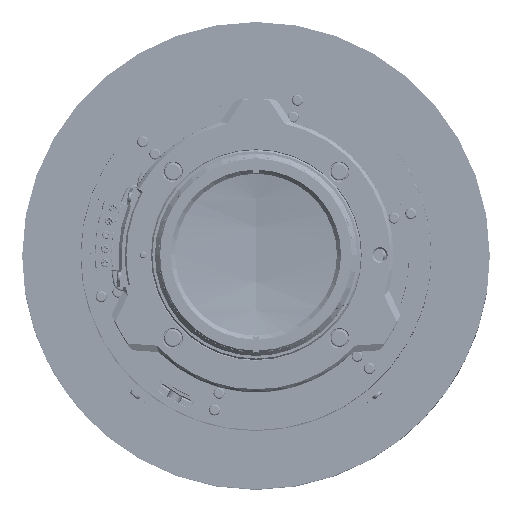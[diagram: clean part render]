
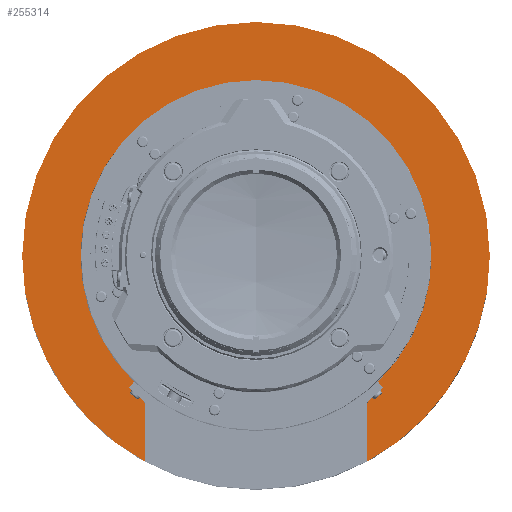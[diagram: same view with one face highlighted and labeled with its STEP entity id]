
A CAD part, top view. The second image highlights one B-rep face of the part: STEP entity #255314.
In plain terms, the highlighted planar face has unit normal (0, 0, 1).
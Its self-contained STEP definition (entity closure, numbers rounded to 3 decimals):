
#86586=CARTESIAN_POINT('',(0.,0.,-269.3));
#86587=DIRECTION('',(0.,0.,-1.));
#86588=DIRECTION('',(-0.695,-0.719,0.));
#86589=AXIS2_PLACEMENT_3D('',#86586,#86587,#86588);
#87432=DIRECTION('',(0.695,-0.719,0.));
#87433=VECTOR('',#87432,2.5);
#87434=CARTESIAN_POINT('',(38.554,-39.923,-269.3));
#87435=LINE('',#87434,#87433);
#87436=DIRECTION('',(-0.695,-0.719,0.));
#87437=VECTOR('',#87436,2.5);
#87438=CARTESIAN_POINT('',(-38.554,-39.923,-269.3));
#87439=LINE('',#87438,#87437);
#87440=CARTESIAN_POINT('',(0.,0.,-269.3));
#87441=DIRECTION('',(0.,0.,1.));
#87442=DIRECTION('',(-0.695,-0.719,0.));
#87443=AXIS2_PLACEMENT_3D('',#87440,#87441,#87442);
#87445=CARTESIAN_POINT('',(-38.,-47.718,-269.3));
#87446=DIRECTION('',(0.,0.,1.));
#87447=DIRECTION('',(1.,0.,0.));
#87448=AXIS2_PLACEMENT_3D('',#87445,#87446,#87447);
#87450=DIRECTION('',(0.,1.,0.));
#87451=VECTOR('',#87450,17.482);
#87452=CARTESIAN_POINT('',(-35.,-65.2,-269.3));
#87453=LINE('',#87452,#87451);
#87454=CARTESIAN_POINT('',(0.,0.,-269.3));
#87455=DIRECTION('',(0.,0.,-1.));
#87456=DIRECTION('',(-0.473,-0.881,0.));
#87457=AXIS2_PLACEMENT_3D('',#87454,#87455,#87456);
#87459=CARTESIAN_POINT('',(0.,0.,-269.3));
#87460=DIRECTION('',(0.,0.,-1.));
#87461=DIRECTION('',(-1.,0.,0.));
#87462=AXIS2_PLACEMENT_3D('',#87459,#87460,#87461);
#87464=CARTESIAN_POINT('',(0.,0.,-269.3));
#87465=DIRECTION('',(0.,0.,-1.));
#87466=DIRECTION('',(1.,0.,0.));
#87467=AXIS2_PLACEMENT_3D('',#87464,#87465,#87466);
#87469=DIRECTION('',(0.,1.,0.));
#87470=VECTOR('',#87469,17.482);
#87471=CARTESIAN_POINT('',(35.,-65.2,-269.3));
#87472=LINE('',#87471,#87470);
#87473=CARTESIAN_POINT('',(38.,-47.718,-269.3));
#87474=DIRECTION('',(0.,0.,1.));
#87475=DIRECTION('',(-0.623,0.782,0.));
#87476=AXIS2_PLACEMENT_3D('',#87473,#87474,#87475);
#87478=CARTESIAN_POINT('',(0.,0.,-269.3));
#87479=DIRECTION('',(0.,0.,1.));
#87480=DIRECTION('',(0.623,-0.782,0.));
#87481=AXIS2_PLACEMENT_3D('',#87478,#87479,#87480);
#137825=CARTESIAN_POINT('',(-74.,0.,-269.3));
#137826=CARTESIAN_POINT('',(74.,0.,-269.3));
#137827=VERTEX_POINT('',#137825);
#137828=VERTEX_POINT('',#137826);
#140963=CARTESIAN_POINT('',(38.554,-39.923,-269.3));
#140964=VERTEX_POINT('',#140963);
#140965=CARTESIAN_POINT('',(-38.554,-39.923,-269.3));
#140966=VERTEX_POINT('',#140965);
#140975=CARTESIAN_POINT('',(40.29,-41.722,-269.3));
#140976=VERTEX_POINT('',#140975);
#140977=CARTESIAN_POINT('',(-40.29,-41.722,-269.3));
#140978=VERTEX_POINT('',#140977);
#140979=CARTESIAN_POINT('',(-36.131,-45.371,-269.3));
#140980=VERTEX_POINT('',#140979);
#140981=CARTESIAN_POINT('',(36.131,-45.371,-269.3));
#140982=VERTEX_POINT('',#140981);
#140983=CARTESIAN_POINT('',(35.,-47.718,-269.3));
#140984=VERTEX_POINT('',#140983);
#140985=CARTESIAN_POINT('',(35.,-65.2,-269.3));
#140986=VERTEX_POINT('',#140985);
#140987=CARTESIAN_POINT('',(-35.,-65.2,-269.3));
#140988=CARTESIAN_POINT('',(-35.,-47.718,-269.3));
#140989=VERTEX_POINT('',#140987);
#140990=VERTEX_POINT('',#140988);
#255287=CARTESIAN_POINT('',(0.,0.,-269.3));
#255288=DIRECTION('',(0.,0.,1.));
#255289=DIRECTION('',(1.,0.,0.));
#255290=AXIS2_PLACEMENT_3D('',#255287,#255288,#255289);
#255291=PLANE('',#255290);
#255292=ORIENTED_EDGE('',*,*,#255272,.F.);
#255293=ORIENTED_EDGE('',*,*,#253404,.F.);
#255294=ORIENTED_EDGE('',*,*,#253544,.T.);
#255295=ORIENTED_EDGE('',*,*,#253473,.T.);
#255297=ORIENTED_EDGE('',*,*,#255296,.F.);
#255299=ORIENTED_EDGE('',*,*,#255298,.F.);
#255301=ORIENTED_EDGE('',*,*,#255300,.T.);
#255303=ORIENTED_EDGE('',*,*,#255302,.T.);
#255305=ORIENTED_EDGE('',*,*,#255304,.T.);
#255307=ORIENTED_EDGE('',*,*,#255306,.T.);
#255309=ORIENTED_EDGE('',*,*,#255308,.F.);
#255311=ORIENTED_EDGE('',*,*,#255310,.T.);
#255312=EDGE_LOOP('',(#255292,#255293,#255294,#255295,#255297,#255299,#255301,
#255303,#255305,#255307,#255309,#255311));
#255313=FACE_OUTER_BOUND('',#255312,.F.);
#86590=CIRCLE('',#86589,55.5);
#87444=CIRCLE('',#87443,58.);
#87449=CIRCLE('',#87448,3.);
#87458=CIRCLE('',#87457,74.);
#87463=CIRCLE('',#87462,74.);
#87468=CIRCLE('',#87467,74.);
#87477=CIRCLE('',#87476,3.);
#87482=CIRCLE('',#87481,58.);
#253404=EDGE_CURVE('',#140966,#140964,#86590,.T.);
#253473=EDGE_CURVE('',#140978,#140980,#87444,.T.);
#253544=EDGE_CURVE('',#140966,#140978,#87439,.T.);
#255272=EDGE_CURVE('',#140964,#140976,#87435,.T.);
#255296=EDGE_CURVE('',#140990,#140980,#87449,.T.);
#255298=EDGE_CURVE('',#140989,#140990,#87453,.T.);
#255300=EDGE_CURVE('',#140989,#137827,#87458,.T.);
#255302=EDGE_CURVE('',#137827,#137828,#87463,.T.);
#255304=EDGE_CURVE('',#137828,#140986,#87468,.T.);
#255306=EDGE_CURVE('',#140986,#140984,#87472,.T.);
#255308=EDGE_CURVE('',#140982,#140984,#87477,.T.);
#255310=EDGE_CURVE('',#140982,#140976,#87482,.T.);
#255314=ADVANCED_FACE('',(#255313),#255291,.T.);
